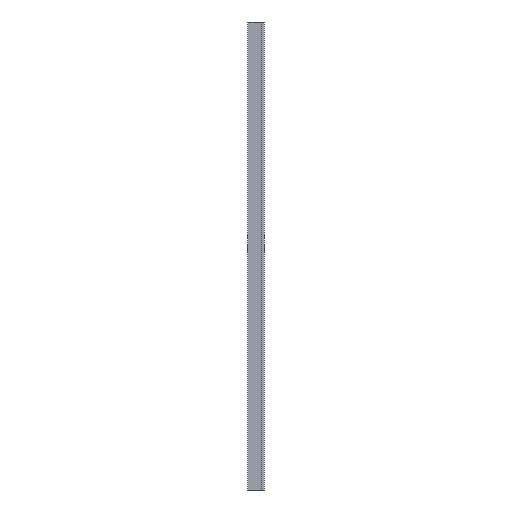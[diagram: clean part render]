
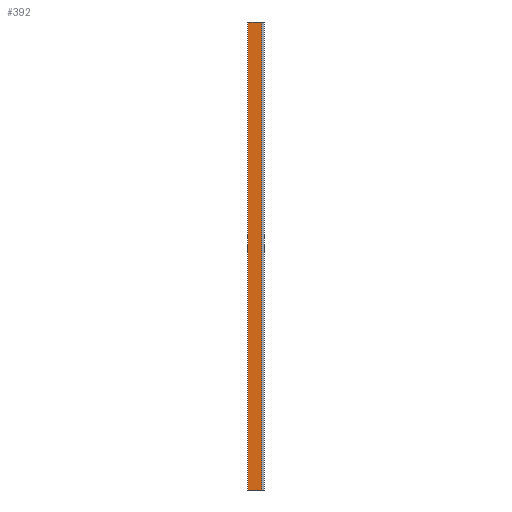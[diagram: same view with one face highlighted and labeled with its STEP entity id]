
A CAD part, left-side view. The second image highlights one B-rep face of the part: STEP entity #392.
In plain terms, the highlighted planar face has unit normal (-1, 0, 0).
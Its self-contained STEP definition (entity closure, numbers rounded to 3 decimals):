
#26 = VERTEX_POINT ( 'NONE', #1492 ) ;
#66 = LINE ( 'NONE', #567, #110 ) ;
#99 = LINE ( 'NONE', #425, #1394 ) ;
#104 = EDGE_LOOP ( 'NONE', ( #463, #279, #841, #1254 ) ) ;
#110 = VECTOR ( 'NONE', #437, 1000. ) ;
#178 = DIRECTION ( 'NONE',  ( 0., -1., 0. ) ) ;
#198 = CARTESIAN_POINT ( 'NONE',  ( -6., 6., 484. ) ) ;
#217 = DIRECTION ( 'NONE',  ( 0., 1., 0. ) ) ;
#218 = VERTEX_POINT ( 'NONE', #1218 ) ;
#239 = PLANE ( 'NONE',  #1603 ) ;
#279 = ORIENTED_EDGE ( 'NONE', *, *, #1617, .F. ) ;
#392 = ADVANCED_FACE ( 'NONE', ( #723 ), #239, .F. ) ;
#425 = CARTESIAN_POINT ( 'NONE',  ( -6., 6., -484. ) ) ;
#437 = DIRECTION ( 'NONE',  ( 0., 0., -1. ) ) ;
#446 = LINE ( 'NONE', #198, #765 ) ;
#452 = VECTOR ( 'NONE', #712, 1000. ) ;
#463 = ORIENTED_EDGE ( 'NONE', *, *, #636, .T. ) ;
#527 = VERTEX_POINT ( 'NONE', #651 ) ;
#567 = CARTESIAN_POINT ( 'NONE',  ( -6., 6., 484. ) ) ;
#636 = EDGE_CURVE ( 'NONE', #26, #527, #99, .T. ) ;
#651 = CARTESIAN_POINT ( 'NONE',  ( -6., 6., -484. ) ) ;
#712 = DIRECTION ( 'NONE',  ( 0., 0., -1. ) ) ;
#723 = FACE_OUTER_BOUND ( 'NONE', #104, .T. ) ;
#765 = VECTOR ( 'NONE', #1333, 1000. ) ;
#833 = LINE ( 'NONE', #1332, #452 ) ;
#841 = ORIENTED_EDGE ( 'NONE', *, *, #1063, .F. ) ;
#1012 = CARTESIAN_POINT ( 'NONE',  ( -6., 6., 484. ) ) ;
#1063 = EDGE_CURVE ( 'NONE', #218, #1275, #446, .T. ) ;
#1112 = CARTESIAN_POINT ( 'NONE',  ( -6., 6., 484. ) ) ;
#1218 = CARTESIAN_POINT ( 'NONE',  ( -6., 34.7, 484. ) ) ;
#1247 = DIRECTION ( 'NONE',  ( 1., 0., 0. ) ) ;
#1254 = ORIENTED_EDGE ( 'NONE', *, *, #1493, .T. ) ;
#1275 = VERTEX_POINT ( 'NONE', #1012 ) ;
#1332 = CARTESIAN_POINT ( 'NONE',  ( -6., 34.7, 484. ) ) ;
#1333 = DIRECTION ( 'NONE',  ( 0., -1., 0. ) ) ;
#1394 = VECTOR ( 'NONE', #178, 1000. ) ;
#1492 = CARTESIAN_POINT ( 'NONE',  ( -6., 34.7, -484. ) ) ;
#1493 = EDGE_CURVE ( 'NONE', #218, #26, #833, .T. ) ;
#1603 = AXIS2_PLACEMENT_3D ( 'NONE', #1112, #1247, #217 ) ;
#1617 = EDGE_CURVE ( 'NONE', #1275, #527, #66, .T. ) ;
